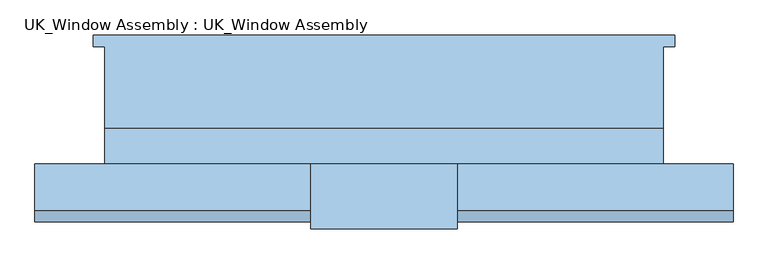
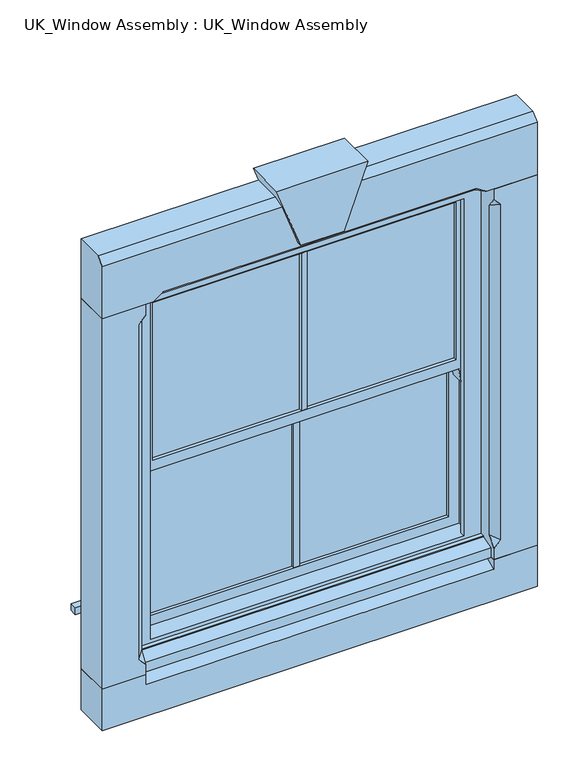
"""IFC4 building model written with IfcOpenShell, lengths in millimetres: window geometry, UK_Window Assembly : UK_Window Assembly."""

from ifc_helpers import new_model, si_unit, frame, origin, place, context, project, spatial, polyline, outline, extrude, faceted_brep, source, transform, mapped, element, save


def uk_window_assembly_uk_window_assembly_1f99bae2(model_context):
    return source(origin(), model_context, "Body", "SolidModel", [
        extrude(outline(polyline([(2150.0, -210.0), (2375.0, -128.1066973), (2375.0, -441.8933027), (2150.0, -360.0), (2150.0, -210.0)])), frame((0.0, -224.6690678, 0.0), z_axis=(0.0, 1.0, 0.0), x_axis=(0.0, 0.0, 1.0)), (0.0, 0.0, 1.0), 140.0),
        faceted_brep([(-1035.0, -84.6690678, 2325.0), (465.0, -84.6690678, 2325.0), (465.0, -84.6690678, 2110.0), (-1035.0, -84.6690678, 2110.0), (-860.0, -209.6690678, 2110.0), (-824.6446609, -209.6690678, 2135.0), (254.6446609, -209.6690678, 2135.0), (290.0, -209.6690678, 2110.0), (465.0, -209.6690678, 2110.0), (465.0, -209.6690678, 2300.0), (-1035.0, -209.6690678, 2300.0), (-1035.0, -209.6690678, 2110.0), (-1035.0, -184.6690678, 2325.0), (265.0, -184.6690678, 2110.0), (-835.0, -184.6690678, 2110.0), (465.0, -184.6690678, 2325.0)], [[[0, 1, 2, 3]], [[4, 5, 6, 7, 8, 9, 10, 11]], [[3, 11, 10, 12, 0]], [[2, 8, 7, 13, 14, 4, 11, 3]], [[1, 15, 9, 8, 2]], [[0, 12, 15, 1]], [[5, 4, 14]], [[14, 13, 6, 5]], [[13, 7, 6]], [[9, 15, 12, 10]]]),
        faceted_brep([(-1035.0, -84.6690678, 760.0), (465.0, -84.6690678, 760.0), (465.0, -84.6690678, 610.0), (-1035.0, -84.6690678, 610.0), (465.0, -209.6690678, 760.0), (315.0, -209.6690678, 760.0), (315.0, -209.6690678, 725.0269256), (-885.0, -209.6690678, 725.0269256), (-885.0, -209.6690678, 760.0), (-1035.0, -209.6690678, 760.0), (-1035.0, -209.6690678, 610.0), (465.0, -209.6690678, 610.0), (-885.0, -134.6690678, 760.0), (315.0, -134.6690678, 760.0)], [[[0, 1, 2, 3]], [[4, 5, 6, 7, 8, 9, 10, 11]], [[3, 10, 9, 0]], [[2, 11, 10, 3]], [[1, 4, 11, 2]], [[0, 9, 8, 12, 13, 5, 4, 1]], [[12, 8, 7]], [[6, 5, 13]], [[7, 6, 13, 12]]]),
        faceted_brep([(315.0, -84.6690678, 2110.0), (465.0, -84.6690678, 2110.0), (465.0, -84.6690678, 760.0), (315.0, -84.6690678, 760.0), (315.0, -209.6690678, 2110.0), (315.0, -209.6690678, 2070.3553391), (340.0, -209.6690678, 2045.3553391), (340.0, -209.6690678, 824.6446609), (315.0, -209.6690678, 799.6446609), (315.0, -209.6690678, 760.0), (465.0, -209.6690678, 760.0), (465.0, -209.6690678, 2110.0), (315.0, -184.6690678, 835.0), (315.0, -184.6690678, 2035.0)], [[[0, 1, 2, 3]], [[4, 5, 6, 7, 8, 9, 10, 11]], [[3, 9, 8, 12, 13, 5, 4, 0]], [[2, 10, 9, 3]], [[1, 11, 10, 2]], [[0, 4, 11, 1]], [[6, 5, 13]], [[13, 12, 7, 6]], [[12, 8, 7]]]),
        faceted_brep([(-1035.0, -84.6690678, 760.0), (-1035.0, -84.6690678, 2110.0), (-885.0, -84.6690678, 2110.0), (-885.0, -84.6690678, 760.0), (-1035.0, -209.6690678, 760.0), (-885.0, -209.6690678, 760.0), (-885.0, -209.6690678, 799.6446609), (-910.0, -209.6690678, 824.6446609), (-910.0, -209.6690678, 2045.3553391), (-885.0, -209.6690678, 2070.3553391), (-885.0, -209.6690678, 2110.0), (-1035.0, -209.6690678, 2110.0), (-885.0, -184.6690678, 2035.0), (-885.0, -184.6690678, 835.0)], [[[0, 1, 2, 3]], [[4, 5, 6, 7, 8, 9, 10, 11]], [[3, 5, 4, 0]], [[2, 10, 9, 12, 13, 6, 5, 3]], [[1, 11, 10, 2]], [[0, 4, 11, 1]], [[12, 9, 8]], [[8, 7, 13, 12]], [[7, 6, 13]]]),
        extrude(outline(polyline([(-910.0, 192.7559322), (340.0, 192.7559322), (340.0, 167.7559322), (315.0, 167.7559322), (315.0, -8.6690678), (-885.0, -8.6690678), (-885.0, 167.7559322), (-910.0, 167.7559322), (-910.0, 192.7559322)])), frame((0.0, 0.0, 760.0), z_axis=(0.0, 0.0, 1.0), x_axis=(1.0, 0.0, 0.0)), (0.0, 0.0, 1.0), 25.0),
        extrude(outline(polyline([(-275.0, -71.6690678), (-295.0, -71.6690678), (-295.0, -26.6690678), (-275.0, -26.6690678), (-275.0, -71.6690678)])), frame((0.0, 0.0, 860.0710678), z_axis=(0.0, 0.0, 1.0), x_axis=(1.0, 0.0, 0.0)), (0.0, 0.0, 1.0), 562.4289322),
        extrude(outline(polyline([(-275.0, -71.6690678), (-275.0, -116.6690678), (-295.0, -116.6690678), (-295.0, -71.6690678), (-275.0, -71.6690678)])), frame((0.0, 0.0, 1460.0), z_axis=(0.0, 0.0, 1.0), x_axis=(1.0, 0.0, 0.0)), (0.0, 0.0, 1.0), 572.9289322),
        faceted_brep([(-845.0, -71.6690678, 2070.0), (-845.0, -71.6690678, 1372.5), (-845.0, -116.6690678, 1372.5), (-845.0, -116.6690678, 2070.0), (-807.9289322, -82.1690678, 2032.9289322), (-807.9289322, -82.1690678, 1459.5710678), (-807.9289322, -71.6690678, 1459.5710678), (-807.9289322, -71.6690678, 2032.9289322), (-817.9289322, -106.1690678, 2042.9289322), (-817.9289322, -106.1690678, 1449.5710678), (-817.9289322, -82.1690678, 1449.5710678), (-817.9289322, -82.1690678, 2042.9289322), (-807.9289322, -116.6690678, 2032.9289322), (-807.9289322, -116.6690678, 1459.5710678), (-807.9289322, -106.1690678, 1459.5710678), (-807.9289322, -106.1690678, 2032.9289322), (247.9289322, -116.6690678, 1422.5), (-817.9289322, -116.6690678, 1422.5), (-817.9289322, -71.6690678, 1422.5), (247.9289322, -71.6690678, 1422.5), (237.9289322, -82.1690678, 1459.5710678), (237.9289322, -71.6690678, 1459.5710678), (247.9289322, -106.1690678, 1449.5710678), (247.9289322, -82.1690678, 1449.5710678), (237.9289322, -116.6690678, 1459.5710678), (237.9289322, -106.1690678, 1459.5710678), (275.0, -116.6690678, 2070.0), (275.0, -116.6690678, 1372.5), (275.0, -71.6690678, 1372.5), (275.0, -71.6690678, 2070.0), (237.9289322, -82.1690678, 2032.9289322), (237.9289322, -71.6690678, 2032.9289322), (247.9289322, -106.1690678, 2042.9289322), (247.9289322, -82.1690678, 2042.9289322), (237.9289322, -116.6690678, 2032.9289322), (237.9289322, -106.1690678, 2032.9289322), (254.9289322, -71.6690678, 1372.5), (-824.9289322, -71.6690678, 1372.5), (-824.9289322, -116.6690678, 1372.5), (254.9289322, -116.6690678, 1372.5)], [[[0, 1, 2, 3]], [[4, 5, 6, 7]], [[8, 9, 10, 11]], [[12, 13, 14, 15]], [[16, 17, 18, 19]], [[5, 20, 21, 6]], [[9, 22, 23, 10]], [[13, 24, 25, 14]], [[26, 27, 28, 29]], [[20, 30, 31, 21]], [[22, 32, 33, 23]], [[24, 34, 35, 25]], [[3, 26, 29, 0]], [[0, 29, 28, 36, 19, 18, 37, 1], [6, 21, 31, 7]], [[7, 31, 30, 4]], [[10, 23, 33, 11], [4, 30, 20, 5]], [[11, 33, 32, 8]], [[8, 32, 22, 9], [14, 25, 35, 15]], [[15, 35, 34, 12]], [[2, 38, 17, 16, 39, 27, 26, 3], [12, 34, 24, 13]], [[28, 27, 39, 36]], [[39, 16, 19, 36]], [[37, 38, 2, 1]], [[37, 18, 17, 38]]]),
        extrude(outline(polyline([(247.9289322, -82.1690678), (247.9289322, -106.1690678), (-817.9289322, -106.1690678), (-817.9289322, -82.1690678), (247.9289322, -82.1690678)])), frame((0.0, 0.0, 1449.5710678), z_axis=(0.0, 0.0, 1.0), x_axis=(1.0, 0.0, 0.0)), (0.0, 0.0, 1.0), 593.3578644),
        extrude(outline(polyline([(247.9289322, -37.1690678), (247.9289322, -61.1690678), (-817.9289322, -61.1690678), (-817.9289322, -37.1690678), (247.9289322, -37.1690678)])), frame((0.0, 0.0, 850.0710678), z_axis=(0.0, 0.0, 1.0), x_axis=(1.0, 0.0, 0.0)), (0.0, 0.0, 1.0), 582.8578644),
        faceted_brep([(-885.0, -8.6690678, 760.0), (-885.0, -8.6690678, 2110.0), (315.0, -8.6690678, 2110.0), (315.0, -8.6690678, 760.0), (-825.0, -8.6690678, 2050.0), (-825.0, -8.6690678, 835.0), (255.0, -8.6690678, 835.0), (255.0, -8.6690678, 2050.0), (-885.0, -194.6690678, 760.0), (-885.0, -194.6690678, 793.8088847), (-885.0, -149.6690678, 806.5550779), (-885.0, -149.6690678, 810.2709278), (-885.0, -134.6690678, 811.0), (-885.0, -134.6690678, 2110.0), (315.0, -134.6690678, 811.0), (315.0, -134.6690678, 2110.0), (-825.0, -134.6690678, 2050.0), (255.0, -134.6690678, 2050.0), (255.0, -134.6690678, 823.0), (-825.0, -134.6690678, 823.0), (-825.0, -116.6690678, 823.0), (-825.0, -116.6690678, 2050.0), (-845.0, -116.6690678, 823.0), (-845.0, -116.6690678, 2070.0), (275.0, -116.6690678, 2070.0), (275.0, -116.6690678, 823.0), (255.0, -116.6690678, 823.0), (255.0, -116.6690678, 2050.0), (-845.0, -26.6690678, 823.0), (-845.0, -26.6690678, 2070.0), (275.0, -26.6690678, 823.0), (275.0, -26.6690678, 2070.0), (-825.0, -26.6690678, 2050.0), (255.0, -26.6690678, 2050.0), (255.0, -26.6690678, 835.0), (-825.0, -26.6690678, 835.0), (315.0, -149.6690678, 810.2709278), (315.0, -149.6690678, 806.5550779), (315.0, -194.6690678, 793.8088847), (315.0, -194.6690678, 760.0)], [[[0, 1, 2, 3], [4, 5, 6, 7]], [[0, 8, 9, 10, 11, 12, 13, 1]], [[12, 14, 15, 13], [16, 17, 18, 19]], [[19, 20, 21, 16]], [[20, 22, 23, 24, 25, 26, 27, 21]], [[22, 28, 29, 23]], [[29, 28, 30, 31], [32, 33, 34, 35]], [[32, 35, 5, 4]], [[1, 13, 15, 2]], [[16, 21, 27, 17]], [[23, 29, 31, 24]], [[7, 33, 32, 4]], [[14, 36, 37, 38, 39, 3, 2, 15]], [[17, 27, 26, 18]], [[24, 31, 30, 25]], [[7, 6, 34, 33]], [[39, 8, 0, 3]], [[38, 9, 8, 39]], [[37, 10, 9, 38]], [[36, 11, 10, 37]], [[14, 12, 11, 36]], [[28, 22, 20, 19, 18, 26, 25, 30]], [[5, 35, 34, 6]]]),
        faceted_brep([(-845.0, -26.6690678, 1460.0), (-845.0, -26.6690678, 823.0), (-845.0, -71.6690678, 823.0), (-845.0, -71.6690678, 1460.0), (-807.9289322, -37.1690678, 1422.9289322), (-807.9289322, -37.1690678, 860.0710678), (-807.9289322, -26.6690678, 860.0710678), (-807.9289322, -26.6690678, 1422.9289322), (-817.9289322, -61.1690678, 1432.9289322), (-817.9289322, -61.1690678, 850.0710678), (-817.9289322, -37.1690678, 850.0710678), (-817.9289322, -37.1690678, 1432.9289322), (-807.9289322, -71.6690678, 1422.9289322), (-807.9289322, -71.6690678, 860.0710678), (-807.9289322, -61.1690678, 860.0710678), (-807.9289322, -61.1690678, 1422.9289322), (275.0, -26.6690678, 823.0), (275.0, -71.6690678, 823.0), (237.9289322, -37.1690678, 860.0710678), (237.9289322, -26.6690678, 860.0710678), (247.9289322, -61.1690678, 850.0710678), (247.9289322, -37.1690678, 850.0710678), (237.9289322, -71.6690678, 860.0710678), (237.9289322, -61.1690678, 860.0710678), (275.0, -26.6690678, 1460.0), (275.0, -71.6690678, 1460.0), (237.9289322, -37.1690678, 1422.9289322), (237.9289322, -26.6690678, 1422.9289322), (247.9289322, -61.1690678, 1432.9289322), (247.9289322, -37.1690678, 1432.9289322), (237.9289322, -71.6690678, 1422.9289322), (237.9289322, -61.1690678, 1422.9289322)], [[[0, 1, 2, 3]], [[4, 5, 6, 7]], [[8, 9, 10, 11]], [[12, 13, 14, 15]], [[1, 16, 17, 2]], [[5, 18, 19, 6]], [[9, 20, 21, 10]], [[13, 22, 23, 14]], [[16, 24, 25, 17]], [[18, 26, 27, 19]], [[20, 28, 29, 21]], [[22, 30, 31, 23]], [[24, 0, 3, 25]], [[1, 0, 24, 16], [7, 6, 19, 27]], [[26, 4, 7, 27]], [[11, 10, 21, 29], [5, 4, 26, 18]], [[28, 8, 11, 29]], [[9, 8, 28, 20], [15, 14, 23, 31]], [[30, 12, 15, 31]], [[3, 2, 17, 25], [13, 12, 30, 22]]]),
    ])


if __name__ == "__main__":
    model = new_model("IFC4")
    model_context = context("Model", 3, world=origin())
    ifc_project = project(units=[si_unit("LENGTHUNIT", "METRE", prefix="MILLI")], contexts=[model_context])
    site = spatial("IfcSite", under=ifc_project)
    building = spatial("IfcBuilding", under=site)
    placement = place(None, origin())
    uk_window_assembly_uk_window_assembly_shape = uk_window_assembly_uk_window_assembly_1f99bae2(model_context)
    element("IfcWindow", 1, ObjectType="UK_Window Assembly : UK_Window Assembly", at=placement, inside=building, context=model_context, shape_type="MappedRepresentation", body=[
        mapped(uk_window_assembly_uk_window_assembly_shape, transform((0.0, 0.0, 0.0), x_axis=(1.0, 0.0, 0.0), y_axis=(0.0, 1.0, 0.0), z_axis=(0.0, 0.0, 1.0))),
    ])
    save(model, "model.ifc")
